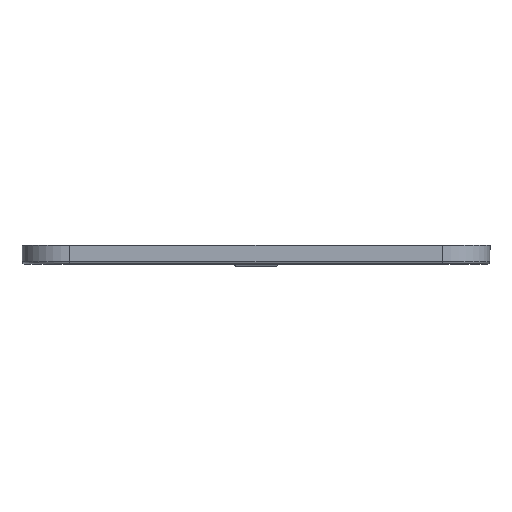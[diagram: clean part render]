
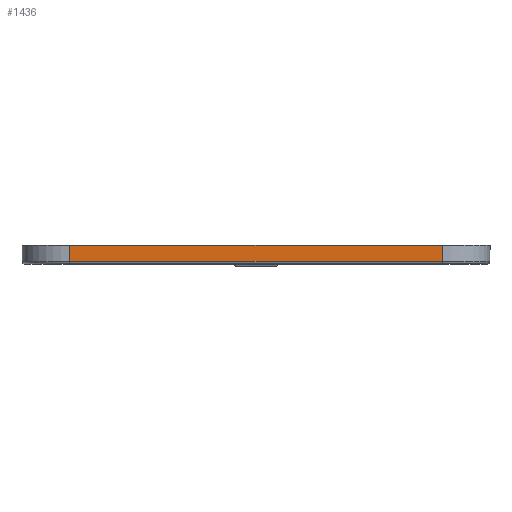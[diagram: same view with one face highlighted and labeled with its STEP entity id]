
A CAD part, left-side view. The second image highlights one B-rep face of the part: STEP entity #1436.
In plain terms, the highlighted planar face has unit normal (-1, 0, 0).
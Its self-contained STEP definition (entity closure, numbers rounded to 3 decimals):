
#11 = EDGE_CURVE ( 'NONE', #1954, #2401, #174, .T. ) ;
#15 = EDGE_CURVE ( 'NONE', #1892, #2401, #168, .T. ) ;
#168 = LINE ( 'NONE', #3738, #184 ) ;
#174 = LINE ( 'NONE', #3727, #238 ) ;
#184 = VECTOR ( 'NONE', #3751, 1000. ) ;
#212 = EDGE_LOOP ( 'NONE', ( #344, #345, #346, #347 ) ) ;
#238 = VECTOR ( 'NONE', #3739, 1000. ) ;
#344 = ORIENTED_EDGE ( 'NONE', *, *, #1538, .T. ) ;
#345 = ORIENTED_EDGE ( 'NONE', *, *, #11, .T. ) ;
#346 = ORIENTED_EDGE ( 'NONE', *, *, #15, .F. ) ;
#347 = ORIENTED_EDGE ( 'NONE', *, *, #3769, .T. ) ;
#546 = VECTOR ( 'NONE', #3475, 1000. ) ;
#568 = LINE ( 'NONE', #3474, #546 ) ;
#894 = LINE ( 'NONE', #2050, #1011 ) ;
#1011 = VECTOR ( 'NONE', #2057, 1000. ) ;
#1351 = PLANE ( 'NONE',  #1974 ) ;
#1360 = CARTESIAN_POINT ( 'NONE',  ( -41.986, 20.343, 89.712 ) ) ;
#1361 = DIRECTION ( 'NONE',  ( -1., 0., 0. ) ) ;
#1362 = DIRECTION ( 'NONE',  ( 0., -1., 0. ) ) ;
#1436 = ADVANCED_FACE ( 'NONE', ( #2289 ), #1351, .T. ) ;
#1538 = EDGE_CURVE ( 'NONE', #1891, #1954, #894, .T. ) ;
#1891 = VERTEX_POINT ( 'NONE', #2069 ) ;
#1892 = VERTEX_POINT ( 'NONE', #2070 ) ;
#1954 = VERTEX_POINT ( 'NONE', #2116 ) ;
#1974 = AXIS2_PLACEMENT_3D ( 'NONE', #1360, #1361, #1362 ) ;
#2050 = CARTESIAN_POINT ( 'NONE',  ( -41.986, 20.343, 89.712 ) ) ;
#2057 = DIRECTION ( 'NONE',  ( 0., 0., -1. ) ) ;
#2069 = CARTESIAN_POINT ( 'NONE',  ( -41.986, 20.343, -3.25 ) ) ;
#2070 = CARTESIAN_POINT ( 'NONE',  ( -41.986, -18.657, -3.25 ) ) ;
#2116 = CARTESIAN_POINT ( 'NONE',  ( -41.986, 20.343, -4.95 ) ) ;
#2132 = CARTESIAN_POINT ( 'NONE',  ( -41.986, -18.657, -4.95 ) ) ;
#2289 = FACE_OUTER_BOUND ( 'NONE', #212, .T. ) ;
#2401 = VERTEX_POINT ( 'NONE', #2132 ) ;
#3474 = CARTESIAN_POINT ( 'NONE',  ( -41.986, 20.343, -3.25 ) ) ;
#3475 = DIRECTION ( 'NONE',  ( 0., 1., 0. ) ) ;
#3727 = CARTESIAN_POINT ( 'NONE',  ( -41.986, -18.657, -4.95 ) ) ;
#3738 = CARTESIAN_POINT ( 'NONE',  ( -41.986, -18.657, 89.712 ) ) ;
#3739 = DIRECTION ( 'NONE',  ( 0., -1., 0. ) ) ;
#3751 = DIRECTION ( 'NONE',  ( 0., 0., -1. ) ) ;
#3769 = EDGE_CURVE ( 'NONE', #1892, #1891, #568, .T. ) ;
